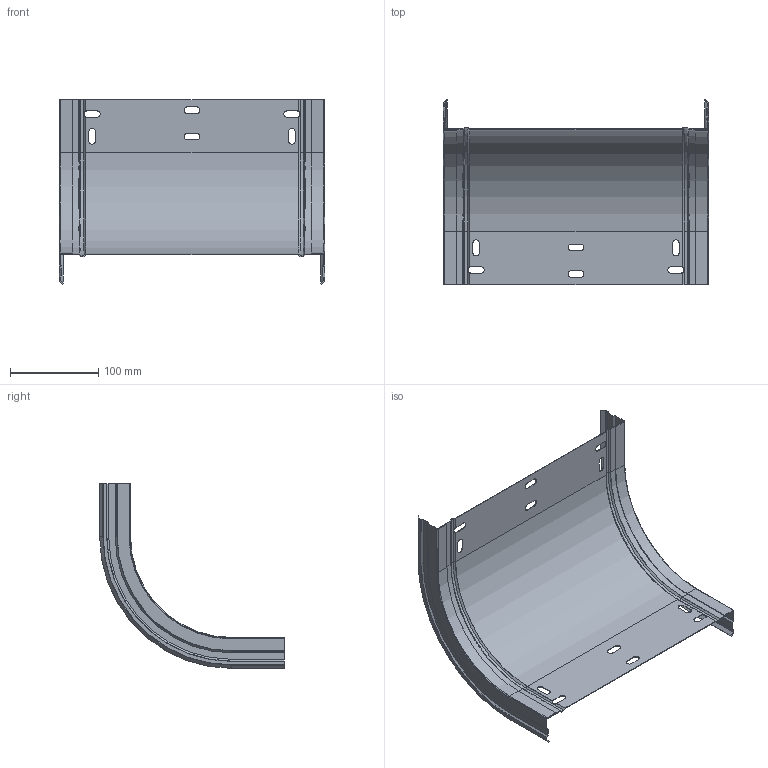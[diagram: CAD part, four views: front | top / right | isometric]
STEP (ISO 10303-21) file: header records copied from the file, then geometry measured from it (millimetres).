
FILE_DESCRIPTION (( 'STEP AP203' ), '1' );
FILE_NAME ('ERE_CONVEXA 300x35.step', '2023-07-27T18:48:45', ( '' ), ( '' ), 'SwSTEP 2.0', 'SolidWorks 2022', '' );
FILE_SCHEMA (( 'CONFIG_CONTROL_DESIGN' ));
Length unit declared in the file: millimetre
Products named in the file (3): ERE_CONVEXA 300x35; ERE_BASE CX_300; ERE_LATERAL CX_35
Assembly tree (3 placements, depth 2):
  ERE_CONVEXA 300x35
    ERE_BASE CX_300
    ERE_LATERAL CX_35  x2
Bounding box: 300 x 209.2 x 209.2 mm (x, y, z)
Volume: 98031.3 mm3; surface area: 247692.1 mm2
Topology: 3 solids, 3 shells, 214 faces, 570 edges, 354 vertices
Faces by surface type: plane 134, cylinder 54, cone 22, torus 4
Entity records: 5551 total; most frequent: CARTESIAN_POINT 948, ORIENTED_EDGE 904, DIRECTION 896, EDGE_CURVE 452, LINE 324, VECTOR 324, AXIS2_PLACEMENT_3D 286, VERTEX_POINT 282
